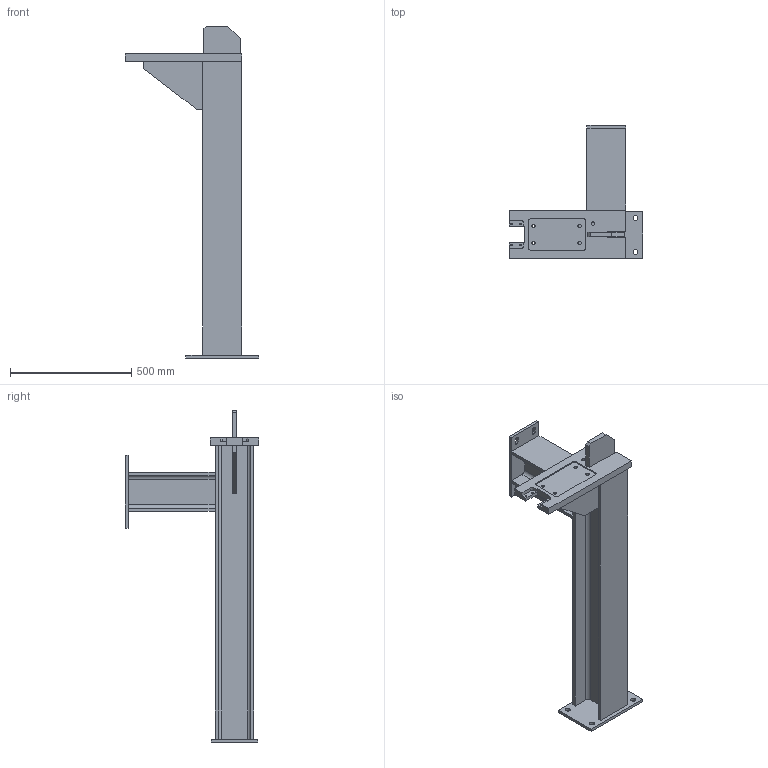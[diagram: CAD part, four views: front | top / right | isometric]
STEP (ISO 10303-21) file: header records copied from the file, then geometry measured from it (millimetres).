
FILE_DESCRIPTION(/* description */ ('Klinkenhalter'),/* implementation_level */ '2;1');
FILE_NAME(/* name */ '00055285.stp',/* time_stamp */ '2023-08-08T14:41:38+02:00',/* author */ ('MD18'),/* organization */ (''),/* preprocessor_version */ 'ST-DEVELOPER v19.2',/* originating_system */ 'Autodesk Inventor 2023',/* authorisation */ '');
FILE_SCHEMA (('AUTOMOTIVE_DESIGN { 1 0 10303 214 3 1 1 }'));
Length unit declared in the file: millimetre
Products named in the file (8): 00055285; 00055285-S05; 00055285-S06; 00055285-S01; 00055285-S02; 00055285-S03; 00055285-S04; 00055285-S07
Assembly tree (7 placements, depth 2):
  00055285
    00055285-S05
    00055285-S06
    00055285-S01
    00055285-S02
    00055285-S03
    00055285-S04
    00055285-S07
Bounding box: 550 x 550 x 1367 mm (x, y, z)
Volume: 13637735.1 mm3; surface area: 2109674.6 mm2
Topology: 7 solids, 7 shells, 126 faces, 333 edges, 222 vertices
Faces by surface type: plane 91, cylinder 35
Full cylindrical faces by diameter (mm): 6.647 x4, 13.835 x5, 20 x4
Entity records: 4261 total; most frequent: CARTESIAN_POINT 696, DIRECTION 685, ORIENTED_EDGE 666, EDGE_CURVE 333, LINE 263, VECTOR 263, VERTEX_POINT 222, AXIS2_PLACEMENT_3D 211
